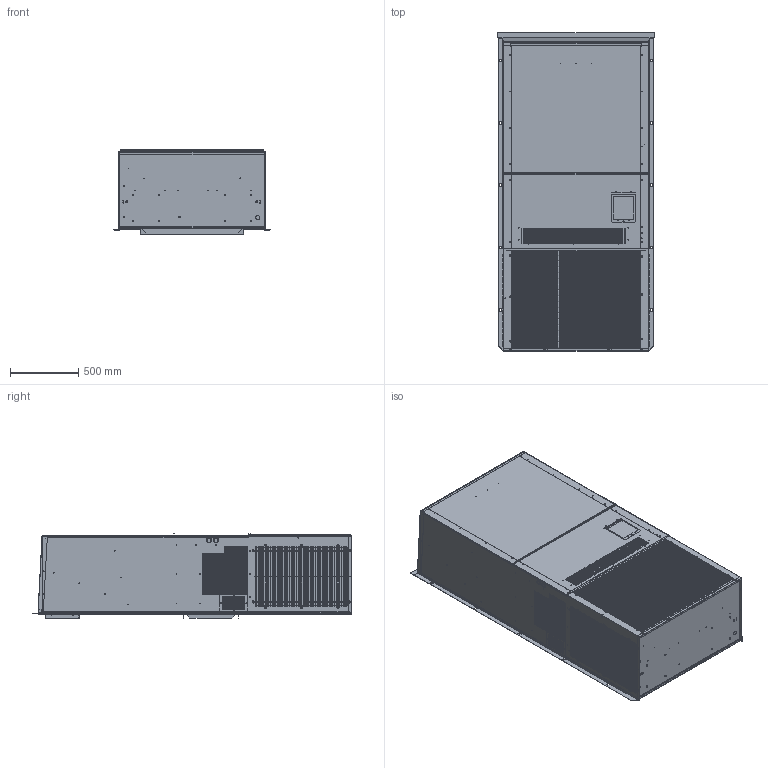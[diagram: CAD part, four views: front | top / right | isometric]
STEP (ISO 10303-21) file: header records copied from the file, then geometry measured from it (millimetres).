
FILE_DESCRIPTION (( 'STEP AP214' ), '1' );
FILE_NAME ('MAA1048H+C+1+D3.STEP', '2023-08-24T14:41:01', ( '' ), ( '' ), 'SwSTEP 2.0', 'SolidWorks 2022', '' );
FILE_SCHEMA (( 'AUTOMOTIVE_DESIGN' ));
Length unit declared in the file: inch
Products named in the file (18): MAA1048H+C+1+D3; SMM13002X_SMM13000X; 93251_02^93251; SMM23036X; 93251_01^93251; SMM22000X; SMM10000X; SMM12000X; SMM13003X_SMM13001x; SMM23000X; d81396; 93251_03^93251; SMM13005X; SMM16066X; 93251; BLOCK OFF - MAA1060A++++N++++1+++C2^MAA1060; SMM12002X; SMM13004X
Assembly tree (28 placements, depth 3):
  MAA1048H+C+1+D3
    SMM10000X
    SMM12000X
    SMM12002X  x2
    SMM13002X_SMM13000X
    SMM13003X_SMM13001x
    SMM13004X
    SMM13005X  x2
    SMM16066X
    SMM22000X
    SMM23000X
    SMM23036X
    d81396  x2
    93251
      93251_01^93251
      93251_02^93251  x4
      93251_03^93251  x6
    BLOCK OFF - MAA1060A++++N++++1+++C2^MAA1060
Bounding box: 1146.61 x 2336.43 x 618.85 mm (x, y, z)
Volume: 1323318012.4 mm3; surface area: 25554191.3 mm2
Topology: 227 solids, 227 shells, 5975 faces, 15826 edges, 10260 vertices
Faces by surface type: plane 3784, cylinder 1671, torus 300, bspline 196, sphere 16, cone 8
Entity records: 181218 total; most frequent: CARTESIAN_POINT 37449, ORIENTED_EDGE 29248, DIRECTION 27952, EDGE_CURVE 14624, LINE 10422, VECTOR 10422, VERTEX_POINT 9486, AXIS2_PLACEMENT_3D 8765
